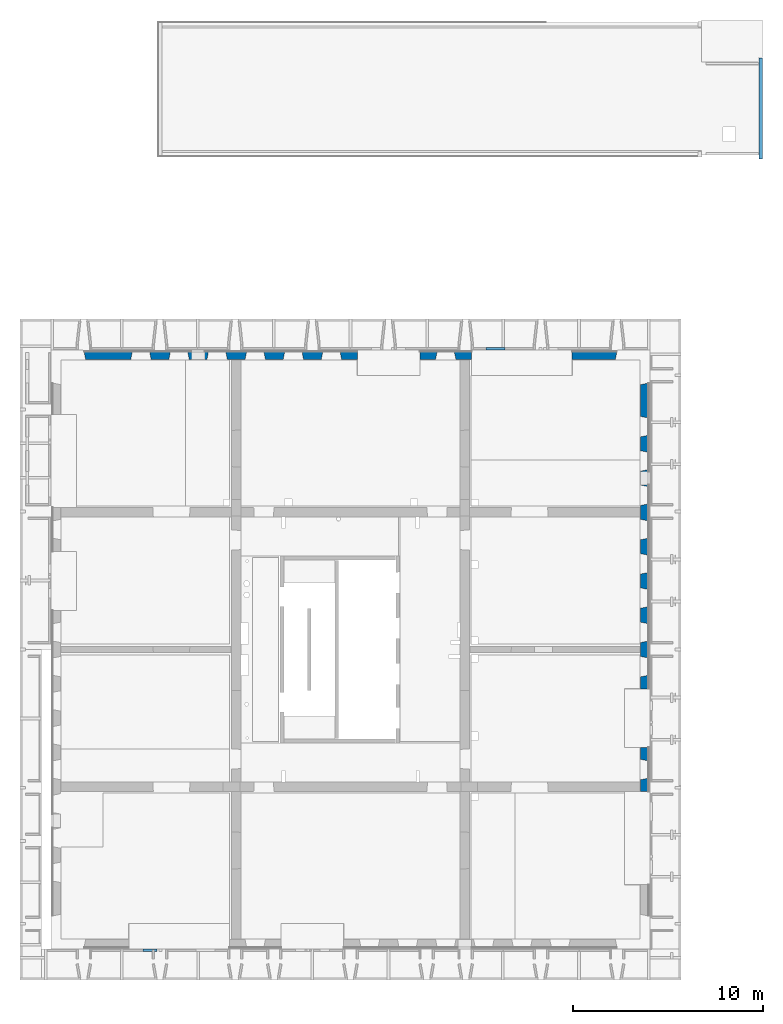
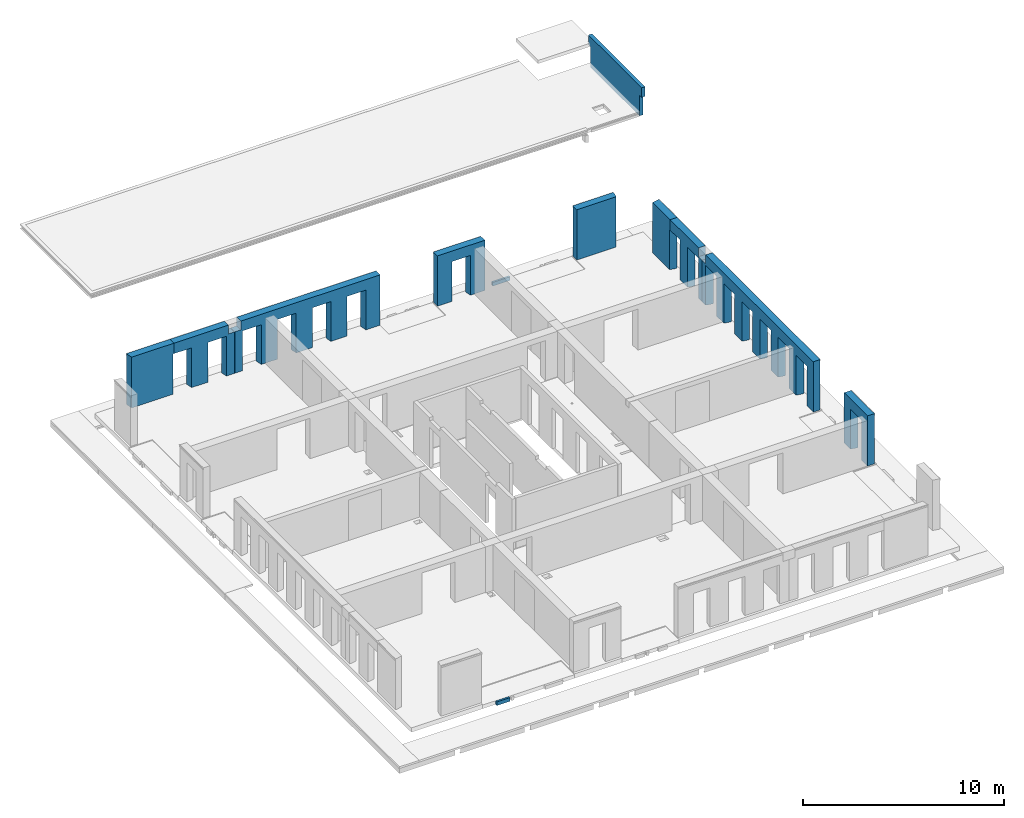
# One storey, part 23 of 27: 12 walls, 29 openings.
"""IFC2X3 building model written with IfcOpenShell, lengths in millimetres."""

from ifc_helpers import new_model, entity, si_unit, converted_unit, derived_unit, direction, frame, frame_2d, origin, origin_2d_with_axis, place, context, subcontext, project, spatial, rectangle, extrude, faceted_brep, material, layer, layer_set, layer_usage, type_object, element, save


model = new_model("IFC2X3")

# Units and contexts
model_context = context("Model", 3, precision=0.01, world=origin(), true_north=direction((6.12303176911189e-17, 1.0)))
body_context = subcontext(model_context, "Body", "Model", "MODEL_VIEW")
ifc_project = project(units=[si_unit("LENGTHUNIT", "METRE", prefix="MILLI"), si_unit("AREAUNIT", "SQUARE_METRE"), si_unit("VOLUMEUNIT", "CUBIC_METRE"), converted_unit("PLANEANGLEUNIT", "DEGREE", entity("IfcRatioMeasure", 0.0174532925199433), si_unit("PLANEANGLEUNIT", "RADIAN"), dimensions=[0, 0, 0, 0, 0, 0, 0]), si_unit("MASSUNIT", "GRAM", prefix="KILO"), derived_unit("MASSDENSITYUNIT", [(si_unit("MASSUNIT", "GRAM", prefix="KILO"), 1), (si_unit("LENGTHUNIT", "METRE"), -3)]), si_unit("TIMEUNIT", "SECOND"), si_unit("FREQUENCYUNIT", "HERTZ"), si_unit("THERMODYNAMICTEMPERATUREUNIT", "DEGREE_CELSIUS"), derived_unit("THERMALTRANSMITTANCEUNIT", [(si_unit("MASSUNIT", "GRAM", prefix="KILO"), 1), (si_unit("THERMODYNAMICTEMPERATUREUNIT", "KELVIN"), -1), (si_unit("TIMEUNIT", "SECOND"), -3)]), derived_unit("VOLUMETRICFLOWRATEUNIT", [(si_unit("LENGTHUNIT", "METRE"), 3), (si_unit("TIMEUNIT", "SECOND"), -1)]), si_unit("ELECTRICCURRENTUNIT", "AMPERE"), si_unit("ELECTRICVOLTAGEUNIT", "VOLT"), si_unit("POWERUNIT", "WATT"), si_unit("FORCEUNIT", "NEWTON", prefix="KILO"), si_unit("ILLUMINANCEUNIT", "LUX"), si_unit("LUMINOUSFLUXUNIT", "LUMEN"), si_unit("LUMINOUSINTENSITYUNIT", "CANDELA"), derived_unit("USERDEFINED", [(si_unit("MASSUNIT", "GRAM", prefix="KILO"), -1), (si_unit("LENGTHUNIT", "METRE"), -2), (si_unit("TIMEUNIT", "SECOND"), 3), (si_unit("LUMINOUSFLUXUNIT", "LUMEN"), 1)]), derived_unit("LINEARVELOCITYUNIT", [(si_unit("LENGTHUNIT", "METRE"), 1), (si_unit("TIMEUNIT", "SECOND"), -1)]), si_unit("PRESSUREUNIT", "PASCAL"), derived_unit("USERDEFINED", [(si_unit("LENGTHUNIT", "METRE"), -2), (si_unit("MASSUNIT", "GRAM", prefix="KILO"), 1), (si_unit("TIMEUNIT", "SECOND"), -2)])], contexts=[model_context])

# Site, building, storey
site_placement = place(None, origin())
site = spatial("IfcSite", under=ifc_project, at=site_placement, Name="Default", CompositionType="ELEMENT")
building_placement = place(site_placement, origin())
building = spatial("IfcBuilding", under=site, at=building_placement, Name="niet gebruiken", CompositionType="ELEMENT")
storey_placement = place(building_placement, frame((0.0, 0.0, 18000.0)))
storey = spatial("IfcBuildingStorey", under=building, at=storey_placement, Name="05 vijfde verdieping", CompositionType="ELEMENT", Elevation=18000.0)

# Wall, openings
ifc_material_1 = material(Name="NLRS_f2_beton prefab")
ifc_layer_1 = layer(ifc_material_1, 200.0)
ifc_layer_set_1 = layer_set([ifc_layer_1], Name="Basic Wall:NLRS_21.21_WA_beton prefab d=200_gen")
ifc_layer_usage_1 = layer_usage(ifc_layer_set_1, "AXIS2", "NEGATIVE", 100.0)
wall_type_1 = type_object("IfcWallType", Name="Basic Wall:NLRS_21.21_WA_beton prefab d=200_gen", PredefinedType="STANDARD", material=ifc_layer_set_1)
wall_1_placement = place(storey_placement, frame((163290.0, 43250.0, -1255.0), z_axis=(0.0, 0.0, 1.0), x_axis=(0.0, 1.0, 0.0)))
wall_1 = element("IfcWallStandardCase", 1, at=wall_1_placement, inside=storey, type_object=wall_type_1, material=ifc_layer_usage_1, Name="Basic Wall:NLRS_21.21_WA_beton prefab d=200_gen", ObjectType="Basic Wall:NLRS_21.21_WA_beton prefab d=200_gen", context=body_context, shape_type="SweptSolid", body=[
    extrude(rectangle(XDim=5300.00000000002, YDim=200.000000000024, at=frame_2d((2650.00000000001, 0.0), x_axis=(-1.0, 0.0))), origin(), (0.0, 0.0, 1.0), 1830.0),
])
opening_1_placement = place(wall_1_placement, origin())
element("IfcOpeningElement", 2, at=opening_1_placement, cuts=wall_1, Name="Basic Wall:NLRS_21.21_WA_beton prefab d=200_gen", ObjectType="Opening", context=body_context, shape_type="SweptSolid", body=[
    extrude(rectangle(XDim=1255.0, YDim=220.000000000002, at=origin_2d_with_axis()), frame((5190.0, -100.0, 627.5), z_axis=(0.0, 1.0, 0.0), x_axis=(0.0, 0.0, -1.0)), (0.0, 0.0, 1.0), 200.000000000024),
])
opening_2_placement = place(wall_1_placement, origin())
element("IfcOpeningElement", 3, at=opening_2_placement, cuts=wall_1, Name="Basic Wall:NLRS_21.21_WA_beton prefab d=200_gen", ObjectType="Opening", context=body_context, shape_type="SweptSolid", body=[
    extrude(rectangle(XDim=1255.0, YDim=220.000000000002, at=frame_2d((0.0, 0.0), x_axis=(0.0, 1.0))), frame((110.0, -100.0, 627.5), z_axis=(0.0, 1.0, 0.0), x_axis=(1.0, 0.0, 0.0)), (0.0, 0.0, 1.0), 200.000000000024),
])

# Wall, opening
ifc_layer_2 = layer(ifc_material_1, 400.0)
ifc_layer_set_2 = layer_set([ifc_layer_2], Name="Basic Wall:NLRS_21.21_WA_beton prefab d=400/420_gen")
ifc_layer_usage_2 = layer_usage(ifc_layer_set_2, "AXIS2", "NEGATIVE", 200.0)
wall_type_2 = type_object("IfcWallType", Name="Basic Wall:NLRS_21.21_WA_beton prefab d=400/420_gen", PredefinedType="STANDARD", material=ifc_layer_set_2)
wall_2_placement = place(storey_placement, frame((153390.0, 32930.0, -60.0)))
wall_2 = element("IfcWallStandardCase", 4, at=wall_2_placement, inside=storey, type_object=wall_type_2, material=ifc_layer_usage_2, Name="Basic Wall:NLRS_21.21_WA_beton prefab d=400/420_gen", ObjectType="Basic Wall:NLRS_21.21_WA_beton prefab d=400/420_gen", context=body_context, shape_type="SweptSolid", body=[
    extrude(rectangle(XDim=2329.99999999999, YDim=400.000000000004, at=frame_2d((1165.0, 6.11066752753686e-13), x_axis=(-1.0, 0.0))), origin(), (0.0, 0.0, 1.0), 3049.99999999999),
])
opening_3_placement = place(wall_2_placement, frame((2265.0, -200.0, 0.0)))
element("IfcOpeningElement", 5, at=opening_3_placement, cuts=wall_2, Name="Basic Wall:NLRS_21.21_WA_beton prefab d=400/420_gen", ObjectType="Opening", context=body_context, shape_type="Brep", body=[
    faceted_brep([(65.0, 0.0, 3050.0), (65.0, 319.0, 3050.0), (0.0, 0.0, 3050.0), (65.0, 0.0, 0.0), (0.0, 0.0, 0.0), (65.0, 319.0, 0.0)], [[[0, 1, 2]], [[3, 4, 5]], [[2, 4, 3, 0]], [[0, 3, 5, 1]], [[1, 5, 4, 2]]]),
])

# Wall, openings
ifc_layer_usage_3 = layer_usage(ifc_layer_set_2, "AXIS2", "NEGATIVE", 200.0)
wall_3_placement = place(storey_placement, frame((130280.0, 32930.0, -60.0)))
wall_3 = element("IfcWallStandardCase", 6, at=wall_3_placement, inside=storey, type_object=wall_type_2, material=ifc_layer_usage_3, Name="Basic Wall:NLRS_21.21_WA_beton prefab d=400/420_gen", ObjectType="Basic Wall:NLRS_21.21_WA_beton prefab d=400/420_gen", context=body_context, shape_type="SweptSolid", body=[
    extrude(rectangle(XDim=3460.00000000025, YDim=399.999999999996, at=frame_2d((1730.00000000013, 1.67688085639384e-12), x_axis=(-1.0, 0.0))), origin(), (0.0, 0.0, 1.0), 3050.0),
])
opening_4_placement = place(wall_3_placement, frame((1935.0, -200.0, 0.0)))
element("IfcOpeningElement", 7, at=opening_4_placement, cuts=wall_3, Name="Basic Wall:NLRS_21.21_WA_beton prefab d=400/420_gen", ObjectType="Opening", context=body_context, shape_type="Brep", body=[
    faceted_brep([(0.0, 0.0, 0.0), (0.0, 0.0, 2415.0), (65.0, 319.0, 2380.0), (65.0, 319.0, 0.0), (65.0, 400.0, 2380.0), (65.0, 400.0, 0.0), (1070.0, 0.0, 2415.0), (1070.0, 0.0, 0.0), (1005.0, 319.0, 2380.0), (1005.0, 400.0, 0.0), (1005.0, 319.0, 0.0), (1005.0, 400.0, 2380.0)], [[[0, 1, 2, 3]], [[4, 5, 3, 2]], [[6, 1, 0, 7]], [[1, 6, 8, 2]], [[7, 0, 3, 5, 9, 10]], [[6, 7, 10, 8]], [[11, 9, 5, 4]], [[11, 4, 2, 8]], [[9, 11, 8, 10]]]),
])
opening_5_placement = place(wall_3_placement, frame((-65.0, -200.0, 0.0)))
element("IfcOpeningElement", 8, at=opening_5_placement, cuts=wall_3, Name="Basic Wall:NLRS_21.21_WA_beton prefab d=400/420_gen", ObjectType="Opening", context=body_context, shape_type="Brep", body=[
    faceted_brep([(0.0, 0.0, 0.0), (0.0, 0.0, 2415.0), (65.0, 319.0, 2380.0), (65.0, 319.0, 0.0), (65.0, 400.0, 2380.0), (65.0, 400.0, 0.0), (1070.0, 0.0, 2415.0), (1070.0, 0.0, 0.0), (1005.0, 319.0, 2380.0), (1005.0, 400.0, 0.0), (1005.0, 319.0, 0.0), (1005.0, 400.0, 2380.0)], [[[0, 1, 2, 3]], [[4, 5, 3, 2]], [[6, 1, 0, 7]], [[1, 6, 8, 2]], [[7, 0, 3, 5, 9, 10]], [[6, 7, 10, 8]], [[11, 9, 5, 4]], [[11, 4, 2, 8]], [[9, 11, 8, 10]]]),
])
opening_6_placement = place(wall_3_placement, origin())
element("IfcOpeningElement", 9, at=opening_6_placement, cuts=wall_3, Name="Basic Wall:NLRS_21.21_WA_beton prefab d=400/420_gen", ObjectType="Opening", context=body_context, shape_type="SweptSolid", body=[
    extrude(rectangle(XDim=535.0, YDim=345.000000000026, at=frame_2d((0.0, 8.66862137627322e-12), x_axis=(1.0, 0.0))), frame((3287.50000000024, 200.0, 2782.5), z_axis=(0.0, -1.0, 0.0), x_axis=(0.0, 0.0, 1.0)), (0.0, 0.0, 1.0), 400.0),
])

# Wall, opening
ifc_layer_usage_4 = layer_usage(ifc_layer_set_2, "AXIS2", "NEGATIVE", 200.0)
wall_4_placement = place(storey_placement, frame((145390.0, 32930.0, -60.0)))
wall_4 = element("IfcWallStandardCase", 10, at=wall_4_placement, inside=storey, type_object=wall_type_2, material=ifc_layer_usage_4, Name="Basic Wall:NLRS_21.21_WA_beton prefab d=400/420_gen", ObjectType="Basic Wall:NLRS_21.21_WA_beton prefab d=400/420_gen", context=body_context, shape_type="SweptSolid", body=[
    extrude(rectangle(XDim=2720.00000000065, YDim=399.999999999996, at=frame_2d((1360.00000000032, -4.54747350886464e-13), x_axis=(-1.0, 0.0))), origin(), (0.0, 0.0, 1.0), 3049.99999999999),
])
opening_7_placement = place(wall_4_placement, frame((825.0, -200.0, 0.0)))
element("IfcOpeningElement", 11, at=opening_7_placement, cuts=wall_4, Name="Basic Wall:NLRS_21.21_WA_beton prefab d=400/420_gen", ObjectType="Opening", context=body_context, shape_type="Brep", body=[
    faceted_brep([(1070.0, 0.0, 0.0), (1005.0, 319.0, 0.0), (1005.0, 319.0, 2380.0), (1070.0, 0.0, 2415.0), (1005.0, 400.0, 2380.0), (1005.0, 400.0, 0.0), (0.0, 0.0, 2415.0), (0.0, 0.0, 0.0), (65.0, 319.0, 2380.0), (65.0, 319.0, 0.0), (65.0, 400.0, 0.0), (65.0, 400.0, 2380.0)], [[[0, 1, 2, 3]], [[4, 2, 1, 5]], [[6, 7, 0, 3]], [[3, 2, 8, 6]], [[7, 9, 10, 5, 1, 0]], [[6, 8, 9, 7]], [[11, 4, 5, 10]], [[11, 8, 2, 4]], [[10, 9, 8, 11]]]),
])

# Wall, openings
ifc_layer_usage_5 = layer_usage(ifc_layer_set_2, "AXIS2", "NEGATIVE", 200.0)
wall_5_placement = place(storey_placement, frame((157180.0, 29670.0, -60.0), z_axis=(0.0, 0.0, 1.0), x_axis=(0.0, -1.0, 0.0)))
wall_5 = element("IfcWallStandardCase", 12, at=wall_5_placement, inside=storey, type_object=wall_type_2, material=ifc_layer_usage_5, Name="Basic Wall:NLRS_21.21_WA_beton prefab d=400/420_gen", ObjectType="Basic Wall:NLRS_21.21_WA_beton prefab d=400/420_gen", context=body_context, shape_type="SweptSolid", body=[
    extrude(rectangle(XDim=3170.00000000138, YDim=399.999999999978, at=frame_2d((1585.00000000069, 2.28794760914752e-12), x_axis=(-1.0, 0.0))), origin(), (0.0, 0.0, 1.0), 3050.0),
])
opening_8_placement = place(wall_5_placement, frame((1005.0, -200.0, 0.0)))
element("IfcOpeningElement", 13, at=opening_8_placement, cuts=wall_5, Name="Basic Wall:NLRS_21.21_WA_beton prefab d=400/420_gen", ObjectType="Opening", context=body_context, shape_type="Brep", body=[
    faceted_brep([(0.0, 0.0, 0.0), (-65.0, 319.0, 0.0), (-65.0, 319.0, 2380.0), (0.0, 0.0, 2415.0), (-65.0, 400.0, 2380.0), (-65.0, 400.0, 0.0), (-1070.0, 0.0, 2415.0), (-1070.0, 0.0, 0.0), (-1005.0, 319.0, 2380.0), (-1005.0, 319.0, 0.0), (-1005.0, 400.0, 0.0), (-1005.0, 400.0, 2380.0)], [[[0, 1, 2, 3]], [[4, 2, 1, 5]], [[6, 7, 0, 3]], [[3, 2, 8, 6]], [[7, 9, 10, 5, 1, 0]], [[6, 8, 9, 7]], [[11, 4, 5, 10]], [[11, 8, 2, 4]], [[10, 9, 8, 11]]]),
])
opening_9_placement = place(wall_5_placement, frame((2805.0, -200.0, 0.0)))
element("IfcOpeningElement", 14, at=opening_9_placement, cuts=wall_5, Name="Basic Wall:NLRS_21.21_WA_beton prefab d=400/420_gen", ObjectType="Opening", context=body_context, shape_type="Brep", body=[
    faceted_brep([(0.0, 0.0, 0.0), (-65.0, 319.0, 0.0), (-65.0, 319.0, 2380.0), (0.0, 0.0, 2415.0), (-65.0, 400.0, 2380.0), (-65.0, 400.0, 0.0), (-1070.0, 0.0, 2415.0), (-1070.0, 0.0, 0.0), (-1005.0, 319.0, 2380.0), (-1005.0, 319.0, 0.0), (-1005.0, 400.0, 0.0), (-1005.0, 400.0, 2380.0)], [[[0, 1, 2, 3]], [[4, 2, 1, 5]], [[6, 7, 0, 3]], [[3, 2, 8, 6]], [[7, 9, 10, 5, 1, 0]], [[6, 8, 9, 7]], [[11, 4, 5, 10]], [[11, 8, 2, 4]], [[10, 9, 8, 11]]]),
])
opening_10_placement = place(wall_5_placement, origin())
element("IfcOpeningElement", 15, at=opening_10_placement, cuts=wall_5, Name="Basic Wall:NLRS_21.21_WA_beton prefab d=400/420_gen", ObjectType="Opening", context=body_context, shape_type="SweptSolid", body=[
    extrude(rectangle(XDim=535.000000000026, YDim=345.0, at=origin_2d_with_axis()), frame((2997.50000000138, 200.0, 2782.49999999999), z_axis=(0.0, -1.0, 0.0), x_axis=(0.0, 0.0, 1.0)), (0.0, 0.0, 1.0), 400.0),
])

# Wall, opening
ifc_layer_usage_6 = layer_usage(ifc_layer_set_2, "AXIS2", "NEGATIVE", 200.0)
wall_6_placement = place(storey_placement, frame((157180.0, 12360.0, -60.0), z_axis=(0.0, 0.0, 1.0), x_axis=(0.0, -1.0, 0.0)))
wall_6 = element("IfcWallStandardCase", 16, at=wall_6_placement, inside=storey, type_object=wall_type_2, material=ifc_layer_usage_6, Name="Basic Wall:NLRS_21.21_WA_beton prefab d=400/420_gen", ObjectType="Basic Wall:NLRS_21.21_WA_beton prefab d=400/420_gen", context=body_context, shape_type="SweptSolid", body=[
    extrude(rectangle(XDim=2320.0, YDim=399.999999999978, at=frame_2d((1160.0, -8.38440428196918e-12), x_axis=(-1.0, 0.0))), origin(), (0.0, 0.0, 1.0), 3049.99999999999),
])
opening_11_placement = place(wall_6_placement, frame((1695.0, -200.0, 0.0)))
element("IfcOpeningElement", 17, at=opening_11_placement, cuts=wall_6, Name="Basic Wall:NLRS_21.21_WA_beton prefab d=400/420_gen", ObjectType="Opening", context=body_context, shape_type="Brep", body=[
    faceted_brep([(0.0, 0.0, 0.0), (-65.0, 319.0, 0.0), (-65.0, 319.0, 2380.0), (0.0, 0.0, 2415.0), (-65.0, 400.0, 2380.0), (-65.0, 400.0, 0.0), (-1070.0, 0.0, 2415.0), (-1070.0, 0.0, 0.0), (-1005.0, 319.0, 2380.0), (-1005.0, 319.0, 0.0), (-1005.0, 400.0, 0.0), (-1005.0, 400.0, 2380.0)], [[[0, 1, 2, 3]], [[4, 2, 1, 5]], [[6, 7, 0, 3]], [[3, 2, 8, 6]], [[7, 9, 10, 5, 1, 0]], [[6, 8, 9, 7]], [[11, 4, 5, 10]], [[11, 8, 2, 4]], [[10, 9, 8, 11]]]),
])

# Wall, openings
ifc_layer_usage_7 = layer_usage(ifc_layer_set_2, "AXIS2", "NEGATIVE", 200.0)
wall_7_placement = place(storey_placement, frame((157180.0, 26490.0, -60.0), z_axis=(0.0, 0.0, 1.0), x_axis=(0.0, -1.0, 0.0)))
wall_7 = element("IfcWallStandardCase", 18, at=wall_7_placement, inside=storey, type_object=wall_type_2, material=ifc_layer_usage_7, Name="Basic Wall:NLRS_21.21_WA_beton prefab d=400/420_gen", ObjectType="Basic Wall:NLRS_21.21_WA_beton prefab d=400/420_gen", context=body_context, shape_type="SweptSolid", body=[
    extrude(rectangle(XDim=11050.0000000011, YDim=399.999999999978, at=frame_2d((5525.00000000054, 0.0), x_axis=(-1.0, 0.0))), origin(), (0.0, 0.0, 1.0), 3049.99999999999),
])
opening_12_placement = place(wall_7_placement, frame((10425.0, -200.0, 0.0)))
element("IfcOpeningElement", 19, at=opening_12_placement, cuts=wall_7, Name="Basic Wall:NLRS_21.21_WA_beton prefab d=400/420_gen", ObjectType="Opening", context=body_context, shape_type="Brep", body=[
    faceted_brep([(0.0, 0.0, 0.0), (-65.0, 319.0, 0.0), (-65.0, 319.0, 2380.0), (0.0, 0.0, 2415.0), (-65.0, 400.0, 2380.0), (-65.0, 400.0, 0.0), (-1070.0, 0.0, 2415.0), (-1070.0, 0.0, 0.0), (-1005.0, 319.0, 2380.0), (-1005.0, 319.0, 0.0), (-1005.0, 400.0, 0.0), (-1005.0, 400.0, 2380.0)], [[[0, 1, 2, 3]], [[4, 2, 1, 5]], [[6, 7, 0, 3]], [[3, 2, 8, 6]], [[7, 9, 10, 5, 1, 0]], [[6, 8, 9, 7]], [[11, 4, 5, 10]], [[11, 8, 2, 4]], [[10, 9, 8, 11]]]),
])
opening_13_placement = place(wall_7_placement, frame((6825.0, -200.0, 0.0)))
element("IfcOpeningElement", 20, at=opening_13_placement, cuts=wall_7, Name="Basic Wall:NLRS_21.21_WA_beton prefab d=400/420_gen", ObjectType="Opening", context=body_context, shape_type="Brep", body=[
    faceted_brep([(0.0, 0.0, 0.0), (-65.0, 319.0, 0.0), (-65.0, 319.0, 2380.0), (0.0, 0.0, 2415.0), (-65.0, 400.0, 2380.0), (-65.0, 400.0, 0.0), (-1070.0, 0.0, 2415.0), (-1070.0, 0.0, 0.0), (-1005.0, 319.0, 2380.0), (-1005.0, 319.0, 0.0), (-1005.0, 400.0, 0.0), (-1005.0, 400.0, 2380.0)], [[[0, 1, 2, 3]], [[4, 2, 1, 5]], [[6, 7, 0, 3]], [[3, 2, 8, 6]], [[7, 9, 10, 5, 1, 0]], [[6, 8, 9, 7]], [[11, 4, 5, 10]], [[11, 8, 2, 4]], [[10, 9, 8, 11]]]),
])
opening_14_placement = place(wall_7_placement, frame((5025.0, -200.0, 0.0)))
element("IfcOpeningElement", 21, at=opening_14_placement, cuts=wall_7, Name="Basic Wall:NLRS_21.21_WA_beton prefab d=400/420_gen", ObjectType="Opening", context=body_context, shape_type="Brep", body=[
    faceted_brep([(0.0, 0.0, 0.0), (-65.0, 319.0, 0.0), (-65.0, 319.0, 2380.0), (0.0, 0.0, 2415.0), (-65.0, 400.0, 2380.0), (-65.0, 400.0, 0.0), (-1070.0, 0.0, 2415.0), (-1070.0, 0.0, 0.0), (-1005.0, 319.0, 2380.0), (-1005.0, 319.0, 0.0), (-1005.0, 400.0, 0.0), (-1005.0, 400.0, 2380.0)], [[[0, 1, 2, 3]], [[4, 2, 1, 5]], [[6, 7, 0, 3]], [[3, 2, 8, 6]], [[7, 9, 10, 5, 1, 0]], [[6, 8, 9, 7]], [[11, 4, 5, 10]], [[11, 8, 2, 4]], [[10, 9, 8, 11]]]),
])
opening_15_placement = place(wall_7_placement, frame((8625.0, -200.0, 0.0)))
element("IfcOpeningElement", 22, at=opening_15_placement, cuts=wall_7, Name="Basic Wall:NLRS_21.21_WA_beton prefab d=400/420_gen", ObjectType="Opening", context=body_context, shape_type="Brep", body=[
    faceted_brep([(0.0, 0.0, 0.0), (-65.0, 319.0, 0.0), (-65.0, 319.0, 2380.0), (0.0, 0.0, 2415.0), (-65.0, 400.0, 2380.0), (-65.0, 400.0, 0.0), (-1070.0, 0.0, 2415.0), (-1070.0, 0.0, 0.0), (-1005.0, 319.0, 2380.0), (-1005.0, 319.0, 0.0), (-1005.0, 400.0, 0.0), (-1005.0, 400.0, 2380.0)], [[[0, 1, 2, 3]], [[4, 2, 1, 5]], [[6, 7, 0, 3]], [[3, 2, 8, 6]], [[7, 9, 10, 5, 1, 0]], [[6, 8, 9, 7]], [[11, 4, 5, 10]], [[11, 8, 2, 4]], [[10, 9, 8, 11]]]),
])
opening_16_placement = place(wall_7_placement, frame((1425.0, -200.0, 0.0)))
element("IfcOpeningElement", 23, at=opening_16_placement, cuts=wall_7, Name="Basic Wall:NLRS_21.21_WA_beton prefab d=400/420_gen", ObjectType="Opening", context=body_context, shape_type="Brep", body=[
    faceted_brep([(0.0, 0.0, 2415.0), (-1070.0, 0.0, 2415.0), (-1070.0, 0.0, 0.0), (0.0, 0.0, 0.0), (-65.0, 319.0, 2380.0), (-1005.0, 319.0, 2380.0), (-1005.0, 319.0, 0.0), (-1005.0, 400.0, 0.0), (-65.0, 400.0, 0.0), (-65.0, 319.0, 0.0), (-65.0, 400.0, 2380.0), (-1005.0, 400.0, 2380.0)], [[[0, 1, 2, 3]], [[1, 0, 4, 5]], [[2, 1, 5, 6]], [[3, 2, 6, 7, 8, 9]], [[0, 3, 9, 4]], [[10, 8, 7, 11]], [[10, 11, 5, 4]], [[11, 7, 6, 5]], [[8, 10, 4, 9]]]),
])
opening_17_placement = place(wall_7_placement, frame((3225.0, -200.0, 0.0)))
element("IfcOpeningElement", 24, at=opening_17_placement, cuts=wall_7, Name="Basic Wall:NLRS_21.21_WA_beton prefab d=400/420_gen", ObjectType="Opening", context=body_context, shape_type="Brep", body=[
    faceted_brep([(0.0, 0.0, 2415.0), (-1070.0, 0.0, 2415.0), (-1070.0, 0.0, 0.0), (0.0, 0.0, 0.0), (-65.0, 319.0, 2380.0), (-1005.0, 319.0, 2380.0), (-1005.0, 319.0, 0.0), (-1005.0, 400.0, 0.0), (-65.0, 400.0, 0.0), (-65.0, 319.0, 0.0), (-65.0, 400.0, 2380.0), (-1005.0, 400.0, 2380.0)], [[[0, 1, 2, 3]], [[1, 0, 4, 5]], [[2, 1, 5, 6]], [[3, 2, 6, 7, 8, 9]], [[0, 3, 9, 4]], [[10, 8, 7, 11]], [[10, 11, 5, 4]], [[11, 7, 6, 5]], [[8, 10, 4, 9]]]),
])
opening_18_placement = place(wall_7_placement, origin())
element("IfcOpeningElement", 25, at=opening_18_placement, cuts=wall_7, Name="Basic Wall:NLRS_21.21_WA_beton prefab d=400/420_gen", ObjectType="Opening", context=body_context, shape_type="SweptSolid", body=[
    extrude(rectangle(XDim=535.0, YDim=345.0, at=frame_2d((-4.33431068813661e-12, 0.0), x_axis=(0.0, 1.0))), frame((172.499999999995, 200.0, 2782.49999999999), z_axis=(0.0, -1.0, 0.0), x_axis=(-1.0, 0.0, 0.0)), (0.0, 0.0, 1.0), 400.0),
])

ifc_layer_usage_8 = layer_usage(ifc_layer_set_2, "AXIS2", "NEGATIVE", 200.0)
wall_8_placement = place(storey_placement, frame((133760.0, 32930.0, -60.0)))
wall_8 = element("IfcWallStandardCase", 26, at=wall_8_placement, inside=storey, type_object=wall_type_2, material=ifc_layer_usage_8, Name="Basic Wall:NLRS_21.21_WA_beton prefab d=400/420_gen", ObjectType="Basic Wall:NLRS_21.21_WA_beton prefab d=400/420_gen", context=body_context, shape_type="SweptSolid", body=[
    extrude(rectangle(XDim=8349.99999999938, YDim=399.999999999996, at=frame_2d((4174.99999999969, 1.406874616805e-12), x_axis=(-1.0, 0.0))), origin(), (0.0, 0.0, 1.0), 3049.99999999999),
])
opening_19_placement = place(wall_8_placement, frame((6455.0, -200.0, 0.0)))
element("IfcOpeningElement", 27, at=opening_19_placement, cuts=wall_8, Name="Basic Wall:NLRS_21.21_WA_beton prefab d=400/420_gen", ObjectType="Opening", context=body_context, shape_type="Brep", body=[
    faceted_brep([(0.0, 0.0, 0.0), (0.0, 0.0, 2415.0), (65.0, 319.0, 2380.0), (65.0, 319.0, 0.0), (65.0, 400.0, 2380.0), (65.0, 400.0, 0.0), (1070.0, 0.0, 2415.0), (1070.0, 0.0, 0.0), (1005.0, 319.0, 2380.0), (1005.0, 400.0, 0.0), (1005.0, 319.0, 0.0), (1005.0, 400.0, 2380.0)], [[[0, 1, 2, 3]], [[4, 5, 3, 2]], [[6, 1, 0, 7]], [[1, 6, 8, 2]], [[7, 0, 3, 5, 9, 10]], [[6, 7, 10, 8]], [[11, 9, 5, 4]], [[11, 4, 2, 8]], [[9, 11, 8, 10]]]),
])
opening_20_placement = place(wall_8_placement, frame((4455.0, -200.0, 0.0)))
element("IfcOpeningElement", 28, at=opening_20_placement, cuts=wall_8, Name="Basic Wall:NLRS_21.21_WA_beton prefab d=400/420_gen", ObjectType="Opening", context=body_context, shape_type="Brep", body=[
    faceted_brep([(0.0, 0.0, 0.0), (0.0, 0.0, 2415.0), (65.0, 319.0, 2380.0), (65.0, 319.0, 0.0), (65.0, 400.0, 2380.0), (65.0, 400.0, 0.0), (1070.0, 0.0, 2415.0), (1070.0, 0.0, 0.0), (1005.0, 319.0, 2380.0), (1005.0, 400.0, 0.0), (1005.0, 319.0, 0.0), (1005.0, 400.0, 2380.0)], [[[0, 1, 2, 3]], [[4, 5, 3, 2]], [[6, 1, 0, 7]], [[1, 6, 8, 2]], [[7, 0, 3, 5, 9, 10]], [[6, 7, 10, 8]], [[11, 9, 5, 4]], [[11, 4, 2, 8]], [[9, 11, 8, 10]]]),
])
opening_21_placement = place(wall_8_placement, frame((455.0, -200.0, 0.0)))
element("IfcOpeningElement", 29, at=opening_21_placement, cuts=wall_8, Name="Basic Wall:NLRS_21.21_WA_beton prefab d=400/420_gen", ObjectType="Opening", context=body_context, shape_type="Brep", body=[
    faceted_brep([(0.0, 0.0, 0.0), (0.0, 0.0, 2415.0), (65.0, 319.0, 2380.0), (65.0, 319.0, 0.0), (65.0, 400.0, 2380.0), (65.0, 400.0, 0.0), (1070.0, 0.0, 2415.0), (1070.0, 0.0, 0.0), (1005.0, 319.0, 2380.0), (1005.0, 400.0, 0.0), (1005.0, 319.0, 0.0), (1005.0, 400.0, 2380.0)], [[[0, 1, 2, 3]], [[4, 5, 3, 2]], [[6, 1, 0, 7]], [[1, 6, 8, 2]], [[7, 0, 3, 5, 9, 10]], [[6, 7, 10, 8]], [[11, 9, 5, 4]], [[11, 4, 2, 8]], [[9, 11, 8, 10]]]),
])
opening_22_placement = place(wall_8_placement, frame((2455.0, -200.0, 0.0)))
element("IfcOpeningElement", 30, at=opening_22_placement, cuts=wall_8, Name="Basic Wall:NLRS_21.21_WA_beton prefab d=400/420_gen", ObjectType="Opening", context=body_context, shape_type="Brep", body=[
    faceted_brep([(0.0, 0.0, 0.0), (0.0, 0.0, 2415.0), (65.0, 319.0, 2380.0), (65.0, 319.0, 0.0), (65.0, 400.0, 2380.0), (65.0, 400.0, 0.0), (1070.0, 0.0, 2415.0), (1070.0, 0.0, 0.0), (1005.0, 319.0, 2380.0), (1005.0, 400.0, 0.0), (1005.0, 319.0, 0.0), (1005.0, 400.0, 2380.0)], [[[0, 1, 2, 3]], [[4, 5, 3, 2]], [[6, 1, 0, 7]], [[1, 6, 8, 2]], [[7, 0, 3, 5, 9, 10]], [[6, 7, 10, 8]], [[11, 9, 5, 4]], [[11, 4, 2, 8]], [[9, 11, 8, 10]]]),
])
opening_23_placement = place(wall_8_placement, origin())
element("IfcOpeningElement", 31, at=opening_23_placement, cuts=wall_8, Name="Basic Wall:NLRS_21.21_WA_beton prefab d=400/420_gen", ObjectType="Opening", context=body_context, shape_type="SweptSolid", body=[
    extrude(rectangle(XDim=534.999999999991, YDim=344.999999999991, at=frame_2d((8.65441052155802e-12, 0.0), x_axis=(0.0, 1.0))), frame((172.499999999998, 200.0, 2782.5), z_axis=(0.0, -1.0, 0.0), x_axis=(-1.0, 0.0, 0.0)), (0.0, 0.0, 1.0), 400.0),
])

# Walls
ifc_material_2 = material(Name="NLRS_a_isolatie")
ifc_layer_3 = layer(ifc_material_2, 120.0)
ifc_layer_set_3 = layer_set([ifc_layer_3], Name="Basic Wall:NLRS_21.10_WA_isokorf d=120_gen")
ifc_layer_usage_9 = layer_usage(ifc_layer_set_3, "AXIS2", "NEGATIVE", 60.0)
wall_type_3 = type_object("IfcWallType", Name="Basic Wall:NLRS_21.10_WA_isokorf d=120_gen", PredefinedType="STANDARD", material=ifc_layer_set_3)
wall_9_placement = place(storey_placement, frame((131605.003540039, 1710.0, -360.0), z_axis=(0.0, 0.0, 1.0), x_axis=(-1.0, 0.0, 0.0)))
element("IfcWallStandardCase", 32, at=wall_9_placement, inside=storey, type_object=wall_type_3, material=ifc_layer_usage_9, Name="Basic Wall:NLRS_21.10_WA_isokorf d=120_gen", ObjectType="Basic Wall:NLRS_21.10_WA_isokorf d=120_gen", context=body_context, shape_type="SweptSolid", body=[
    extrude(rectangle(XDim=749.999999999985, YDim=120.0, at=frame_2d((374.999999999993, -3.19744231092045e-14), x_axis=(-1.0, 0.0))), origin(), (0.0, 0.0, 1.0), 220.000000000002),
])
ifc_layer_usage_10 = layer_usage(ifc_layer_set_3, "AXIS2", "NEGATIVE", 60.0)
wall_10_placement = place(storey_placement, frame((148855.0, 33290.0, -360.0)))
element("IfcWallStandardCase", 33, at=wall_10_placement, inside=storey, type_object=wall_type_3, material=ifc_layer_usage_10, Name="Basic Wall:NLRS_21.10_WA_isokorf d=120_gen", ObjectType="Basic Wall:NLRS_21.10_WA_isokorf d=120_gen", context=body_context, shape_type="SweptSolid", body=[
    extrude(rectangle(XDim=999.999999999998, YDim=119.999999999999, at=frame_2d((499.999999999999, -4.76063632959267e-13), x_axis=(-1.0, 0.0))), origin(), (0.0, 0.0, 1.0), 220.000000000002),
])

# Wall, openings
ifc_material_3 = material(Name="NLRS_f2_beton ihwg")
ifc_layer_4 = layer(ifc_material_3, 400.0)
ifc_layer_set_4 = layer_set([ifc_layer_4], Name="Basic Wall:NLRS_21.21_WA_beton ihwg d=400/420_gen")
ifc_layer_usage_11 = layer_usage(ifc_layer_set_4, "AXIS2", "NEGATIVE", 200.0)
wall_type_4 = type_object("IfcWallType", Name="Basic Wall:NLRS_21.21_WA_beton ihwg d=400/420_gen", PredefinedType="STANDARD", material=ifc_layer_set_4)
wall_11_placement = place(storey_placement, frame((157180.0, 31470.0, -90.0), z_axis=(0.0, 0.0, 1.0), x_axis=(0.0, -1.0, 0.0)))
wall_11 = element("IfcWallStandardCase", 34, at=wall_11_placement, inside=storey, type_object=wall_type_4, material=ifc_layer_usage_11, Name="Basic Wall:NLRS_21.21_WA_beton ihwg d=400/420_gen", ObjectType="Basic Wall:NLRS_21.21_WA_beton ihwg d=400/420_gen", context=body_context, shape_type="SweptSolid", body=[
    extrude(rectangle(XDim=1799.9999999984, YDim=399.999999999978, at=frame_2d((899.999999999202, 7.98650034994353e-12), x_axis=(-1.0, 0.0))), origin(), (0.0, 0.0, 1.0), 3079.99999999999),
])
opening_24_placement = place(wall_11_placement, frame((65.0, -200.0, 0.0)))
element("IfcOpeningElement", 35, at=opening_24_placement, cuts=wall_11, Name="Basic Wall:NLRS_21.21_WA_beton ihwg d=400/420_gen", ObjectType="Opening", context=body_context, shape_type="Brep", body=[
    faceted_brep([(-65.0, 0.0, 3080.0), (0.0, 0.0, 3080.0), (-65.0, 319.0, 3080.0), (-65.0, 0.0, 0.0), (-65.0, 319.0, 0.0), (0.0, 0.0, 0.0)], [[[0, 1, 2]], [[3, 4, 5]], [[1, 0, 3, 5]], [[0, 2, 4, 3]], [[2, 1, 5, 4]]]),
])
opening_25_placement = place(wall_11_placement, frame((2805.0, -200.0, 30.0)))
element("IfcOpeningElement", 36, at=opening_25_placement, cuts=wall_11, Name="Basic Wall:NLRS_21.21_WA_beton ihwg d=400/420_gen", ObjectType="Opening", context=body_context, shape_type="Brep", body=[
    faceted_brep([(-1070.0, 0.0, 2415.0), (-1070.0, 0.0, 0.0), (0.0, 0.0, 0.0), (0.0, 0.0, 2415.0), (-65.0, 319.0, 2380.0), (-1005.0, 319.0, 2380.0), (-65.0, 319.0, 0.0), (-1005.0, 319.0, 0.0), (-1005.0, 400.0, 0.0), (-65.0, 400.0, 0.0), (-1005.0, 400.0, 2380.0), (-65.0, 400.0, 2380.0)], [[[0, 1, 2, 3]], [[3, 4, 5, 0]], [[2, 6, 4, 3]], [[1, 7, 8, 9, 6, 2]], [[0, 5, 7, 1]], [[10, 11, 9, 8]], [[10, 5, 4, 11]], [[11, 4, 6, 9]], [[8, 7, 5, 10]]]),
])
opening_26_placement = place(wall_11_placement, frame((1800.0, -200.0, 0.0)))
element("IfcOpeningElement", 37, at=opening_26_placement, cuts=wall_11, Name="Basic Wall:NLRS_21.21_WA_beton ihwg d=400/420_gen", ObjectType="Opening", context=body_context, shape_type="Brep", body=[
    faceted_brep([(0.0, 0.0, 30.0), (0.0, 319.0, 30.0), (-65.0, 0.0, 30.0), (0.0, 0.0, 0.0), (-65.0, 0.0, 0.0), (0.0, 319.0, 0.0)], [[[0, 1, 2]], [[3, 4, 5]], [[2, 4, 3, 0]], [[0, 3, 5, 1]], [[1, 5, 4, 2]]]),
])

ifc_layer_usage_12 = layer_usage(ifc_layer_set_4, "AXIS2", "NEGATIVE", 200.0)
wall_12_placement = place(storey_placement, frame((127780.0, 32930.0, -90.0)))
wall_12 = element("IfcWallStandardCase", 38, at=wall_12_placement, inside=storey, type_object=wall_type_4, material=ifc_layer_usage_12, Name="Basic Wall:NLRS_21.21_WA_beton ihwg d=400/420_gen", ObjectType="Basic Wall:NLRS_21.21_WA_beton ihwg d=400/420_gen", context=body_context, shape_type="SweptSolid", body=[
    extrude(rectangle(XDim=2500.0, YDim=400.000000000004, at=frame_2d((1250.0, -5.96855898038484e-13), x_axis=(-1.0, 0.0))), origin(), (0.0, 0.0, 1.0), 3079.99999999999),
])
opening_27_placement = place(wall_12_placement, frame((0.0, -200.0, 0.0)))
element("IfcOpeningElement", 39, at=opening_27_placement, cuts=wall_12, Name="Basic Wall:NLRS_21.21_WA_beton ihwg d=400/420_gen", ObjectType="Opening", context=body_context, shape_type="Brep", body=[
    faceted_brep([(0.0, 0.0, 3080.0), (65.0, 0.0, 3080.0), (0.0, 319.0, 3080.0), (0.0, 0.0, 0.0), (0.0, 319.0, 0.0), (65.0, 0.0, 0.0)], [[[0, 1, 2]], [[3, 4, 5]], [[1, 0, 3, 5]], [[0, 2, 4, 3]], [[2, 1, 5, 4]]]),
])
opening_28_placement = place(wall_12_placement, frame((2435.0, -200.0, 30.0)))
element("IfcOpeningElement", 40, at=opening_28_placement, cuts=wall_12, Name="Basic Wall:NLRS_21.21_WA_beton ihwg d=400/420_gen", ObjectType="Opening", context=body_context, shape_type="Brep", body=[
    faceted_brep([(1070.0, 0.0, 2415.0), (0.0, 0.0, 2415.0), (0.0, 0.0, 0.0), (1070.0, 0.0, 0.0), (1005.0, 319.0, 2380.0), (65.0, 319.0, 2380.0), (65.0, 319.0, 0.0), (65.0, 400.0, 0.0), (1005.0, 400.0, 0.0), (1005.0, 319.0, 0.0), (1005.0, 400.0, 2380.0), (65.0, 400.0, 2380.0)], [[[0, 1, 2, 3]], [[1, 0, 4, 5]], [[2, 1, 5, 6]], [[3, 2, 6, 7, 8, 9]], [[0, 3, 9, 4]], [[10, 8, 7, 11]], [[10, 11, 5, 4]], [[11, 7, 6, 5]], [[8, 10, 4, 9]]]),
])
opening_29_placement = place(wall_12_placement, frame((2435.0, -200.0, 0.0)))
element("IfcOpeningElement", 41, at=opening_29_placement, cuts=wall_12, Name="Basic Wall:NLRS_21.21_WA_beton ihwg d=400/420_gen", ObjectType="Opening", context=body_context, shape_type="Brep", body=[
    faceted_brep([(65.0, 0.0, 30.0), (65.0, 319.0, 30.0), (0.0, 0.0, 30.0), (65.0, 0.0, 0.0), (0.0, 0.0, 0.0), (65.0, 319.0, 0.0)], [[[0, 1, 2]], [[3, 4, 5]], [[2, 4, 3, 0]], [[0, 3, 5, 1]], [[1, 5, 4, 2]]]),
])

save(model, "model.ifc")
